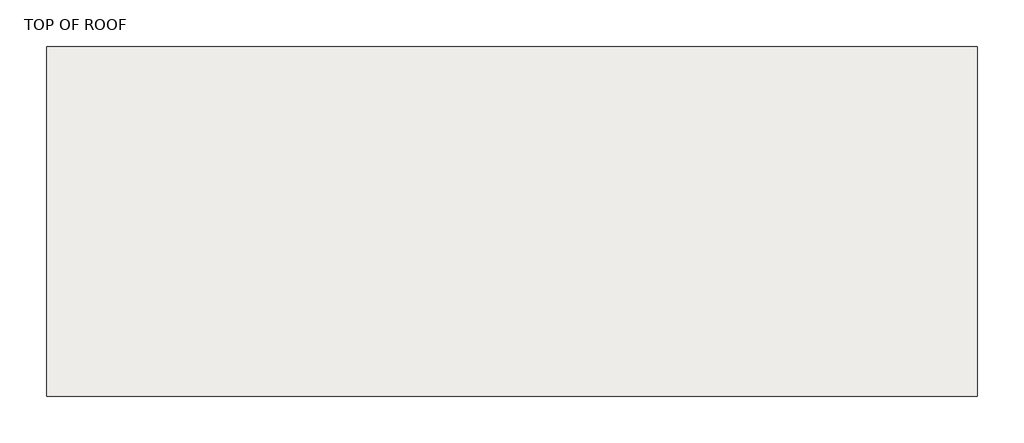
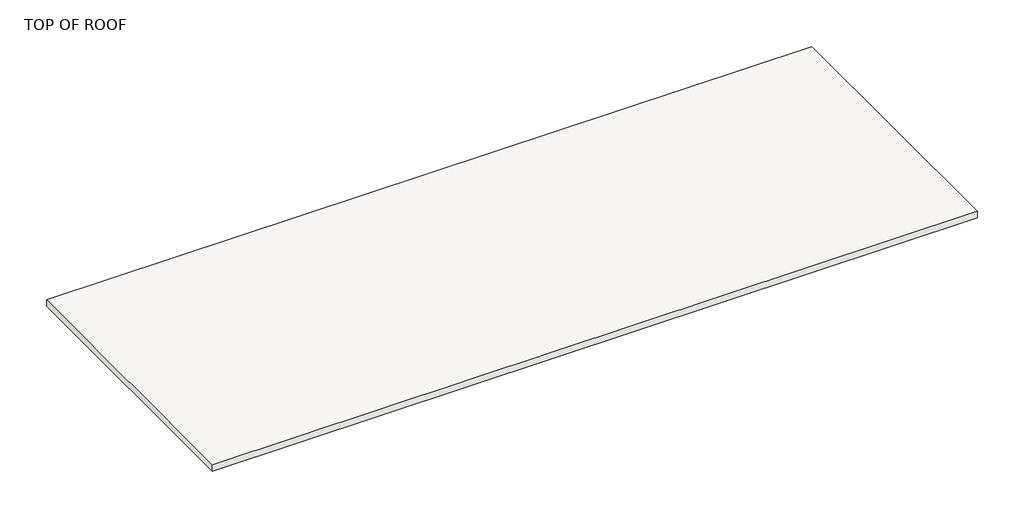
# One storey: 1 covering.
"""IFC4 building model written with IfcOpenShell, lengths in millimetres."""

from ifc_helpers import new_model, si_unit, frame, origin, place, context, project, spatial, polyline, outline, extrude, element, save

model = new_model("IFC4")

# Units and contexts
model_context = context("Model", 3, world=origin())
ifc_project = project(units=[si_unit("LENGTHUNIT", "METRE", prefix="MILLI")], contexts=[model_context])

# Site, building, storey
site = spatial("IfcSite", under=ifc_project)
building = spatial("IfcBuilding", under=site)
storey = spatial("IfcBuildingStorey", under=building, Name="TOP OF ROOF", Elevation=2489.2)

# Covering
placement = place(None, origin())
element("IfcCovering", 1, ObjectType="GWB ON 3 5/8\" STRUCTURE", at=placement, inside=storey, context=model_context, shape_type="SweptSolid", body=[
    extrude(outline(polyline([(40369.0537962, 346085.6826428), (40369.0537962, 343901.2826428), (34552.4537962, 343901.2826428), (34552.4537962, 346085.6826428), (40369.0537962, 346085.6826428)])), frame((0.0, 0.0, 2336.8), z_axis=(0.0, 0.0, 1.0), x_axis=(1.0, 0.0, 0.0)), (0.0, 0.0, 1.0), 50.8),
])

save(model, "model.ifc")
